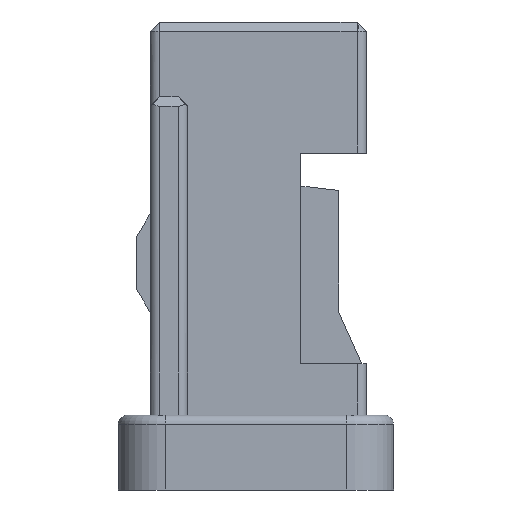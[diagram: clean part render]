
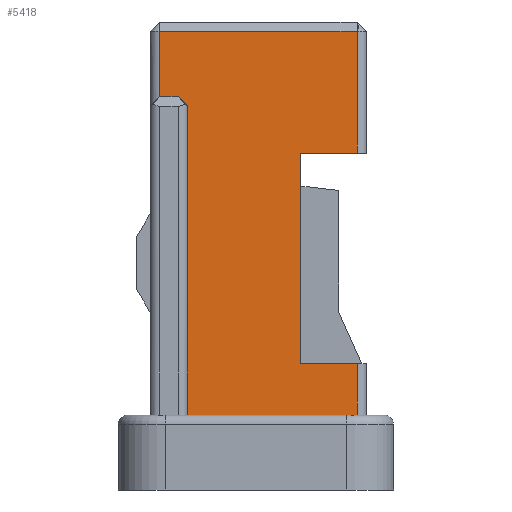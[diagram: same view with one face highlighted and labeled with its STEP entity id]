
A CAD part, left-side view. The second image highlights one B-rep face of the part: STEP entity #5418.
In plain terms, the highlighted planar face has unit normal (-1, 0, 0).
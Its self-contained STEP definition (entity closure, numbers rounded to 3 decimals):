
#44 = EDGE_CURVE ( 'NONE', #3676, #4961, #5003, .T. ) ;
#274 = CARTESIAN_POINT ( 'NONE',  ( -1.57, -1.08, -0.518 ) ) ;
#347 = EDGE_CURVE ( 'NONE', #846, #7113, #3964, .T. ) ;
#555 = EDGE_CURVE ( 'NONE', #6833, #665, #2542, .T. ) ;
#613 = VECTOR ( 'NONE', #5345, 1000. ) ;
#665 = VERTEX_POINT ( 'NONE', #3423 ) ;
#670 = LINE ( 'NONE', #4644, #4428 ) ;
#677 = CARTESIAN_POINT ( 'NONE',  ( -1.57, 1.47, 0.782 ) ) ;
#696 = VECTOR ( 'NONE', #4521, 1000. ) ;
#791 = VECTOR ( 'NONE', #8416, 1000. ) ;
#846 = VERTEX_POINT ( 'NONE', #2982 ) ;
#864 = CARTESIAN_POINT ( 'NONE',  ( -1.57, 1.47, 0.082 ) ) ;
#938 = ORIENTED_EDGE ( 'NONE', *, *, #4493, .F. ) ;
#1202 = EDGE_CURVE ( 'NONE', #846, #665, #8605, .T. ) ;
#1521 = CARTESIAN_POINT ( 'NONE',  ( -1.57, 1.47, 0.082 ) ) ;
#1548 = LINE ( 'NONE', #4895, #8298 ) ;
#1588 = ORIENTED_EDGE ( 'NONE', *, *, #6231, .F. ) ;
#2074 = VECTOR ( 'NONE', #6160, 1000. ) ;
#2135 = EDGE_CURVE ( 'NONE', #4599, #7413, #2316, .T. ) ;
#2136 = CARTESIAN_POINT ( 'NONE',  ( -1.57, -1.08, 0.782 ) ) ;
#2316 = LINE ( 'NONE', #3556, #2074 ) ;
#2388 = EDGE_CURVE ( 'NONE', #7413, #3676, #4037, .T. ) ;
#2542 = LINE ( 'NONE', #5809, #696 ) ;
#2637 = VECTOR ( 'NONE', #3377, 1000. ) ;
#2668 = CARTESIAN_POINT ( 'NONE',  ( -1.57, -1.08, 0.082 ) ) ;
#2754 = VECTOR ( 'NONE', #8697, 1000. ) ;
#2868 = CARTESIAN_POINT ( 'NONE',  ( -1.57, -0.48, -0.518 ) ) ;
#2982 = CARTESIAN_POINT ( 'NONE',  ( -1.57, -1.08, -3.318 ) ) ;
#3314 = VERTEX_POINT ( 'NONE', #2868 ) ;
#3377 = DIRECTION ( 'NONE',  ( 0., 1., 0. ) ) ;
#3378 = EDGE_CURVE ( 'NONE', #7113, #4967, #5680, .T. ) ;
#3423 = CARTESIAN_POINT ( 'NONE',  ( -1.57, -1.08, -2.768 ) ) ;
#3463 = LINE ( 'NONE', #6806, #2754 ) ;
#3554 = LINE ( 'NONE', #1521, #4723 ) ;
#3556 = CARTESIAN_POINT ( 'NONE',  ( -1.57, -1.08, 0.082 ) ) ;
#3675 = ORIENTED_EDGE ( 'NONE', *, *, #2388, .T. ) ;
#3676 = VERTEX_POINT ( 'NONE', #4294 ) ;
#3690 = CARTESIAN_POINT ( 'NONE',  ( -1.57, 1.03, 0.082 ) ) ;
#3866 = CARTESIAN_POINT ( 'NONE',  ( -1.57, -0.48, -2.768 ) ) ;
#3951 = VECTOR ( 'NONE', #6644, 1000. ) ;
#3964 = LINE ( 'NONE', #8014, #3951 ) ;
#4037 = LINE ( 'NONE', #677, #2637 ) ;
#4214 = DIRECTION ( 'NONE',  ( 0., -1., 0. ) ) ;
#4233 = CARTESIAN_POINT ( 'NONE',  ( -1.57, 1.03, 0.082 ) ) ;
#4294 = CARTESIAN_POINT ( 'NONE',  ( -1.57, 1.03, 0.782 ) ) ;
#4312 = ORIENTED_EDGE ( 'NONE', *, *, #347, .F. ) ;
#4428 = VECTOR ( 'NONE', #8076, 1000. ) ;
#4493 = EDGE_CURVE ( 'NONE', #4599, #3314, #1548, .T. ) ;
#4521 = DIRECTION ( 'NONE',  ( 0., -1., 0. ) ) ;
#4599 = VERTEX_POINT ( 'NONE', #274 ) ;
#4644 = CARTESIAN_POINT ( 'NONE',  ( -1.57, -0.48, -0.518 ) ) ;
#4723 = VECTOR ( 'NONE', #4214, 1000. ) ;
#4836 = DIRECTION ( 'NONE',  ( 1., 0., 0. ) ) ;
#4854 = DIRECTION ( 'NONE',  ( 0., 1., 0. ) ) ;
#4877 = PLANE ( 'NONE',  #7663 ) ;
#4895 = CARTESIAN_POINT ( 'NONE',  ( -1.57, -0.465, -0.518 ) ) ;
#4929 = ORIENTED_EDGE ( 'NONE', *, *, #8356, .T. ) ;
#4961 = VERTEX_POINT ( 'NONE', #4233 ) ;
#4967 = VERTEX_POINT ( 'NONE', #8199 ) ;
#5003 = LINE ( 'NONE', #3690, #7635 ) ;
#5345 = DIRECTION ( 'NONE',  ( 0., 0., 1. ) ) ;
#5418 = ADVANCED_FACE ( 'NONE', ( #7499 ), #4877, .F. ) ;
#5459 = DIRECTION ( 'NONE',  ( 0., 0., -1. ) ) ;
#5591 = DIRECTION ( 'NONE',  ( 0., 0., -1. ) ) ;
#5680 = LINE ( 'NONE', #6297, #791 ) ;
#5809 = CARTESIAN_POINT ( 'NONE',  ( -1.57, -1.18, -2.768 ) ) ;
#6160 = DIRECTION ( 'NONE',  ( 0., 0., 1. ) ) ;
#6176 = ORIENTED_EDGE ( 'NONE', *, *, #1202, .T. ) ;
#6217 = ORIENTED_EDGE ( 'NONE', *, *, #555, .F. ) ;
#6231 = EDGE_CURVE ( 'NONE', #3314, #6833, #670, .T. ) ;
#6297 = CARTESIAN_POINT ( 'NONE',  ( -1.57, 0.73, -5.238 ) ) ;
#6543 = ORIENTED_EDGE ( 'NONE', *, *, #2135, .T. ) ;
#6644 = DIRECTION ( 'NONE',  ( 0., 1., 0. ) ) ;
#6806 = CARTESIAN_POINT ( 'NONE',  ( -1.57, 1.15, 0.402 ) ) ;
#6833 = VERTEX_POINT ( 'NONE', #3866 ) ;
#7113 = VERTEX_POINT ( 'NONE', #8480 ) ;
#7374 = EDGE_CURVE ( 'NONE', #7625, #4967, #3463, .T. ) ;
#7413 = VERTEX_POINT ( 'NONE', #2136 ) ;
#7467 = ORIENTED_EDGE ( 'NONE', *, *, #3378, .F. ) ;
#7499 = FACE_OUTER_BOUND ( 'NONE', #7560, .T. ) ;
#7560 = EDGE_LOOP ( 'NONE', ( #4312, #6176, #6217, #1588, #938, #6543, #3675, #7765, #4929, #8705, #7467 ) ) ;
#7625 = VERTEX_POINT ( 'NONE', #7932 ) ;
#7635 = VECTOR ( 'NONE', #5591, 1000. ) ;
#7663 = AXIS2_PLACEMENT_3D ( 'NONE', #864, #4836, #5459 ) ;
#7765 = ORIENTED_EDGE ( 'NONE', *, *, #44, .T. ) ;
#7932 = CARTESIAN_POINT ( 'NONE',  ( -1.57, 0.83, 0.082 ) ) ;
#8014 = CARTESIAN_POINT ( 'NONE',  ( -1.57, -1.18, -3.318 ) ) ;
#8076 = DIRECTION ( 'NONE',  ( 0., 0., -1. ) ) ;
#8199 = CARTESIAN_POINT ( 'NONE',  ( -1.57, 0.73, -0.018 ) ) ;
#8298 = VECTOR ( 'NONE', #4854, 1000. ) ;
#8356 = EDGE_CURVE ( 'NONE', #4961, #7625, #3554, .T. ) ;
#8416 = DIRECTION ( 'NONE',  ( 0., 0., 1. ) ) ;
#8480 = CARTESIAN_POINT ( 'NONE',  ( -1.57, 0.73, -3.318 ) ) ;
#8605 = LINE ( 'NONE', #2668, #613 ) ;
#8697 = DIRECTION ( 'NONE',  ( 0., -0.707, -0.707 ) ) ;
#8705 = ORIENTED_EDGE ( 'NONE', *, *, #7374, .T. ) ;
